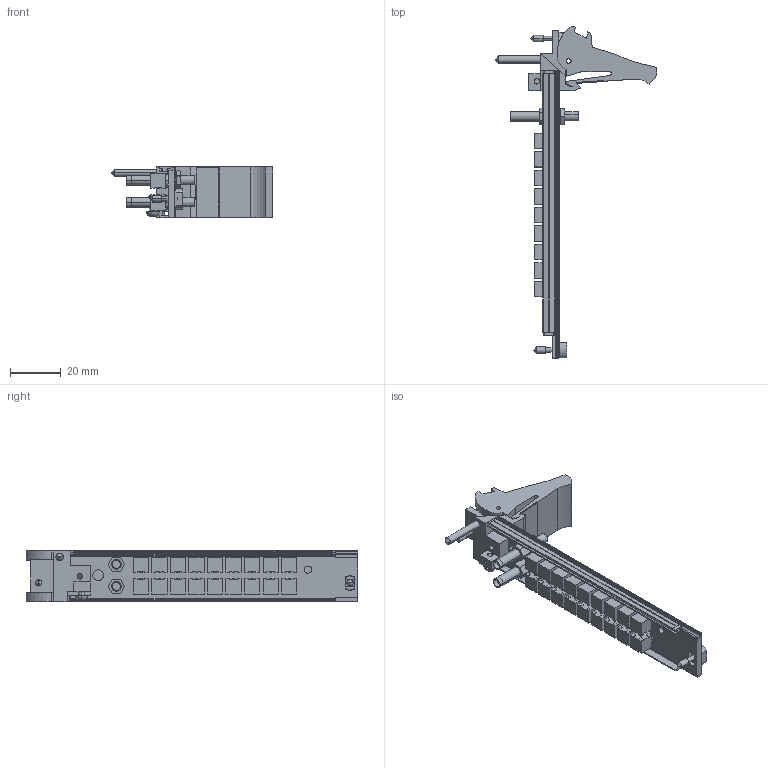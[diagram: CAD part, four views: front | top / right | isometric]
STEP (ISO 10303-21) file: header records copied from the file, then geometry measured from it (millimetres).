
FILE_DESCRIPTION((''),'2;1');
FILE_NAME('CU_PXI-2593','2009-09-01T',('jjorden'),(''),'PRO/ENGINEER BY PARAMETRIC TECHNOLOGY CORPORATION, 2006080','PRO/ENGINEER BY PARAMETRIC TECHNOLOGY CORPORATION, 2006080','');
FILE_SCHEMA(('CONFIG_CONTROL_DESIGN'));
Length unit declared in the file: inch
Products named in the file (1): CU_PXI-2593
Bounding box: 63.53 x 130.46 x 20.31 mm (x, y, z)
Volume: 19175 mm3; surface area: 21710.8 mm2
Topology: 21 solids, 21 shells, 995 faces, 2474 edges, 1617 vertices
Faces by surface type: plane 672, cylinder 285, cone 18, sphere 8, torus 6, bspline 6
Entity records: 30359 total; most frequent: CARTESIAN_POINT 6018, DIRECTION 5051, ORIENTED_EDGE 4932, EDGE_CURVE 2466, VECTOR 1773, LINE 1773, AXIS2_PLACEMENT_3D 1639, VERTEX_POINT 1636
